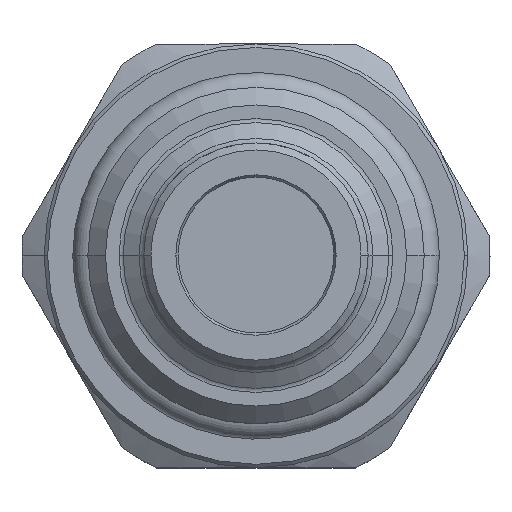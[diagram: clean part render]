
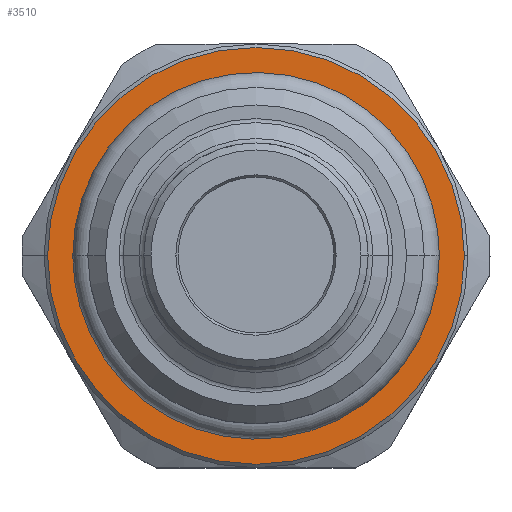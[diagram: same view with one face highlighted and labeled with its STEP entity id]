
A CAD part, top view. The second image highlights one B-rep face of the part: STEP entity #3510.
In plain terms, the highlighted planar face has unit normal (0, 0, 1).
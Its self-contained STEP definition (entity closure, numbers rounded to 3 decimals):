
#78 = AXIS2_PLACEMENT_3D ( 'NONE', #835, #816, #813 ) ;
#648 = VERTEX_POINT ( 'NONE', #5549 ) ;
#813 = DIRECTION ( 'NONE',  ( 1., 0., 0. ) ) ;
#816 = DIRECTION ( 'NONE',  ( 0., 0., 1. ) ) ;
#835 = CARTESIAN_POINT ( 'NONE',  ( 13.856, 0., -26.778 ) ) ;
#877 = PLANE ( 'NONE',  #78 ) ;
#897 = CARTESIAN_POINT ( 'NONE',  ( 0., 0., -26.778 ) ) ;
#1120 = CARTESIAN_POINT ( 'NONE',  ( -9.15, 0., -26.778 ) ) ;
#1265 = AXIS2_PLACEMENT_3D ( 'NONE', #4667, #4651, #4646 ) ;
#1370 = DIRECTION ( 'NONE',  ( 1., 0., 0. ) ) ;
#1415 = VERTEX_POINT ( 'NONE', #1120 ) ;
#1464 = ORIENTED_EDGE ( 'NONE', *, *, #3059, .T. ) ;
#1477 = CIRCLE ( 'NONE', #1265, 9.15 ) ;
#1672 = ORIENTED_EDGE ( 'NONE', *, *, #3987, .T. ) ;
#1838 = AXIS2_PLACEMENT_3D ( 'NONE', #897, #4058, #1370 ) ;
#1839 = FACE_OUTER_BOUND ( 'NONE', #5429, .T. ) ;
#2138 = DIRECTION ( 'NONE',  ( 1., 0., 0. ) ) ;
#2140 = DIRECTION ( 'NONE',  ( 0., 0., -1. ) ) ;
#2151 = CARTESIAN_POINT ( 'NONE',  ( 0., 0., -26.778 ) ) ;
#2158 = EDGE_CURVE ( 'NONE', #5005, #2786, #5204, .T. ) ;
#2786 = VERTEX_POINT ( 'NONE', #3006 ) ;
#2802 = CIRCLE ( 'NONE', #1838, 11.8 ) ;
#2805 = ORIENTED_EDGE ( 'NONE', *, *, #5430, .T. ) ;
#3006 = CARTESIAN_POINT ( 'NONE',  ( -11.8, 0., -26.778 ) ) ;
#3059 = EDGE_CURVE ( 'NONE', #648, #1415, #5347, .T. ) ;
#3510 = ADVANCED_FACE ( 'NONE', ( #4200, #1839 ), #877, .T. ) ;
#3987 = EDGE_CURVE ( 'NONE', #1415, #648, #1477, .T. ) ;
#4058 = DIRECTION ( 'NONE',  ( 0., 0., 1. ) ) ;
#4200 = FACE_BOUND ( 'NONE', #5528, .T. ) ;
#4404 = DIRECTION ( 'NONE',  ( 1., 0., 0. ) ) ;
#4410 = DIRECTION ( 'NONE',  ( 0., 0., 1. ) ) ;
#4411 = CARTESIAN_POINT ( 'NONE',  ( 0., 0., -26.778 ) ) ;
#4449 = AXIS2_PLACEMENT_3D ( 'NONE', #4411, #4410, #4404 ) ;
#4646 = DIRECTION ( 'NONE',  ( 1., 0., 0. ) ) ;
#4651 = DIRECTION ( 'NONE',  ( 0., 0., -1. ) ) ;
#4667 = CARTESIAN_POINT ( 'NONE',  ( 0., 0., -26.778 ) ) ;
#5005 = VERTEX_POINT ( 'NONE', #5650 ) ;
#5204 = CIRCLE ( 'NONE', #4449, 11.8 ) ;
#5308 = AXIS2_PLACEMENT_3D ( 'NONE', #2151, #2140, #2138 ) ;
#5347 = CIRCLE ( 'NONE', #5308, 9.15 ) ;
#5429 = EDGE_LOOP ( 'NONE', ( #2805, #5838 ) ) ;
#5430 = EDGE_CURVE ( 'NONE', #2786, #5005, #2802, .T. ) ;
#5528 = EDGE_LOOP ( 'NONE', ( #1464, #1672 ) ) ;
#5549 = CARTESIAN_POINT ( 'NONE',  ( 9.15, 0., -26.778 ) ) ;
#5650 = CARTESIAN_POINT ( 'NONE',  ( 11.8, 0., -26.778 ) ) ;
#5838 = ORIENTED_EDGE ( 'NONE', *, *, #2158, .T. ) ;
